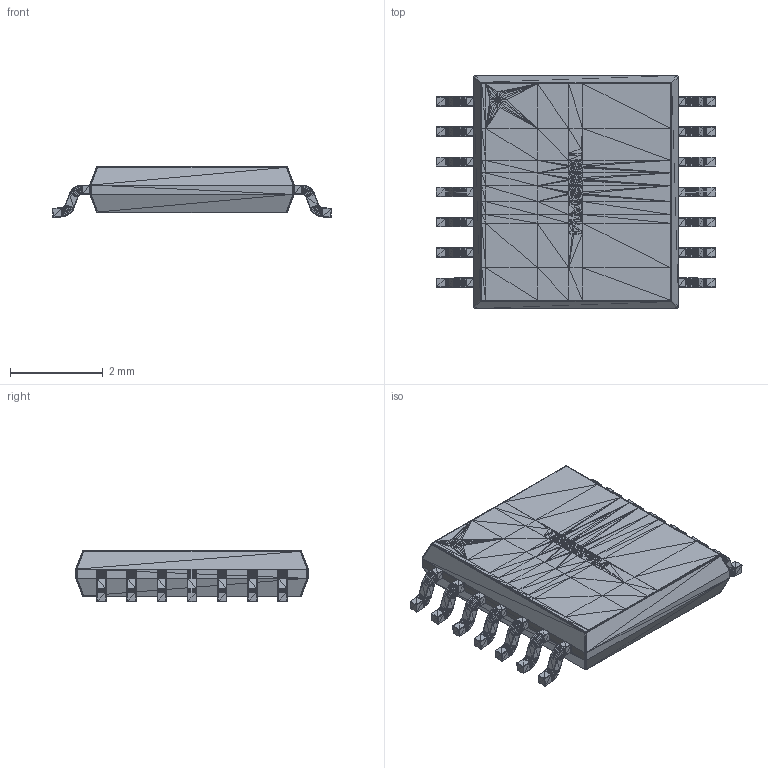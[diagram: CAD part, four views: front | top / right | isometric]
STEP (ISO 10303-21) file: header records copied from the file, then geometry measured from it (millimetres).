
FILE_DESCRIPTION(('auto-generated'),'2;1');
FILE_SCHEMA(('CONFIG_CONTROL_DESIGN'));
Bounding box: 6.01 x 5 x 1.1 mm (x, y, z)
Volume: 0.6 mm3; surface area: 70.6 mm2
Topology: 14 solids, 32 shells, 31596 faces, 47839 edges, 16273 vertices
Faces by surface type: plane 31596
Entity records: 447067 total; most frequent: ORIENTED_EDGE 94788, EDGE_CURVE 47839, LINE 47838, DIRECTION 44299, AXIS2_PLACEMENT_3D 31597, PLANE 31596, EDGE_LOOP 31596, FACE_BOUND 31596
